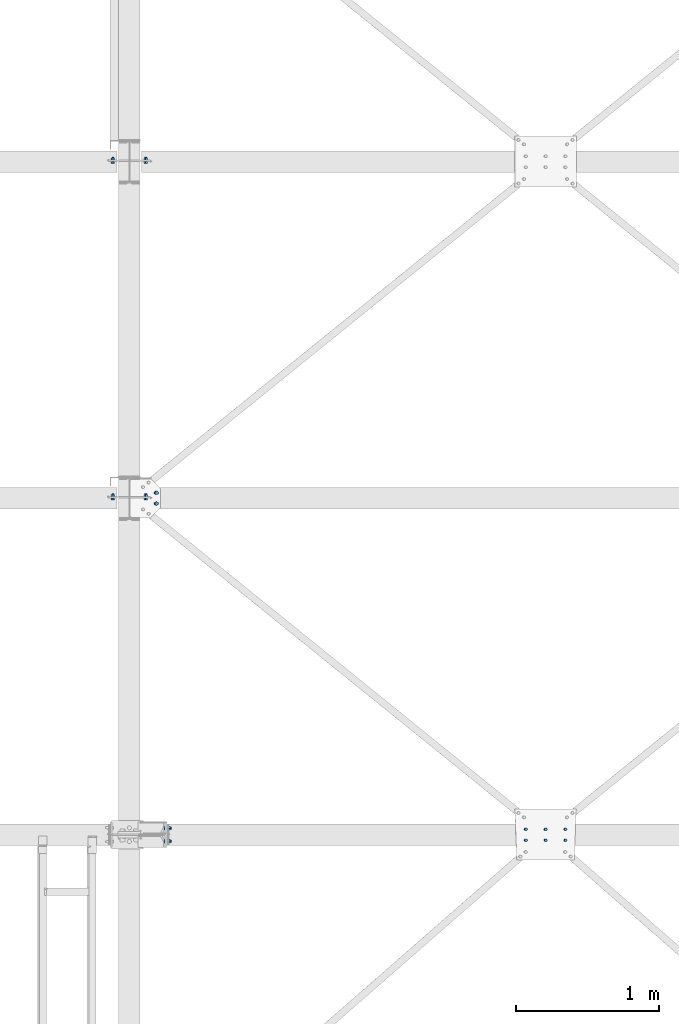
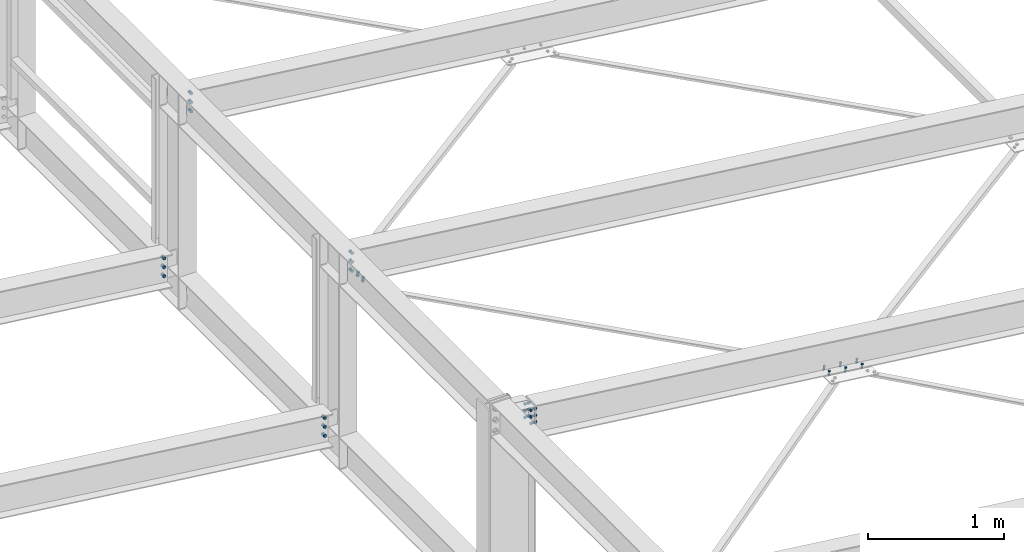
# One storey, part 114 of 3134: 7 mechanical fasteners, 6 elements without a shape of their own.
"""IFC2X3 building model written with IfcOpenShell, lengths in millimetres."""

from ifc_helpers import new_model, si_unit, frame, origin_with_axes, place, context, subcontext, project, spatial, faceted_brep, source, transform, mapped, material, type_object, element, aggregate, save


model = new_model("IFC2X3")

# Units and contexts
model_context = context("Model", 3, precision=1e-05, world=origin_with_axes())
body_context = subcontext(model_context, "Body", "Model", "MODEL_VIEW")
ifc_project = project(units=[si_unit("LENGTHUNIT", "METRE", prefix="MILLI"), si_unit("AREAUNIT", "SQUARE_METRE"), si_unit("VOLUMEUNIT", "CUBIC_METRE"), si_unit("MASSUNIT", "GRAM", prefix="KILO"), si_unit("TIMEUNIT", "SECOND"), si_unit("PLANEANGLEUNIT", "RADIAN"), si_unit("SOLIDANGLEUNIT", "STERADIAN"), si_unit("THERMODYNAMICTEMPERATUREUNIT", "DEGREE_CELSIUS"), si_unit("LUMINOUSINTENSITYUNIT", "LUMEN")], contexts=[model_context])

# Site, building, storey
site_placement = place(None, origin_with_axes())
site = spatial("IfcSite", under=ifc_project, at=site_placement, CompositionType="ELEMENT")
building_placement = place(site_placement, origin_with_axes())
building = spatial("IfcBuilding", under=site, at=building_placement, Name="Undefined", CompositionType="ELEMENT")
storey_placement = place(building_placement, origin_with_axes())
storey = spatial("IfcBuildingStorey", under=building, at=storey_placement, Name="Undefined", CompositionType="ELEMENT", Elevation=0.0)

# Assembly, mechanical fastener
assembly_1_placement = place(storey_placement, origin_with_axes())
assembly_1 = element("IfcElementAssembly", 1, at=assembly_1_placement, inside=storey, Name="IPE400", AssemblyPlace="NOTDEFINED", PredefinedType="RIGID_FRAME")
ifc_material = material(Name="8.8")
mechanical_fastener_type = type_object("IfcMechanicalFastenerType", Name="Bolt assembly")
shared_shape_1 = source(origin_with_axes(), body_context, "Body", "Brep", [
    faceted_brep([(13.856406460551, -33.499999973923, 0.0), (6.92820323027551, -33.499999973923, 12.0), (-6.92820323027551, -33.499999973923, 12.0), (-13.856406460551, -33.499999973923, 1.69692038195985e-15), (-6.92820323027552, -33.499999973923, -12.0), (6.9282032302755, -33.499999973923, -12.0), (6.9282032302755, -23.499999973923, -12.0), (-6.92820323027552, -23.499999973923, -12.0), (-13.856406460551, -23.499999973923, 1.69692038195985e-15), (-6.92820323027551, -23.499999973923, 12.0), (6.92820323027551, -23.499999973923, 12.0), (13.856406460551, -23.499999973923, 0.0), (8.0, -23.499999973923, 0.0), (6.92820323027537, -23.499999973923, 4.00000000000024), (3.99999999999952, -23.499999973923, 6.92820323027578), (-8.29068785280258e-13, -23.499999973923, 8.0), (-4.00000000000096, -23.499999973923, 6.92820323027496), (-6.9282032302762, -23.499999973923, 3.99999999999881), (-8.0, -23.499999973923, -1.65813757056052e-12), (-6.92820323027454, -23.499999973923, -4.00000000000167), (-3.99999999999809, -23.499999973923, -6.92820323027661), (2.47832457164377e-12, -23.499999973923, -8.0), (4.00000000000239, -23.499999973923, -6.92820323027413), (6.92820323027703, -23.499999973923, -3.99999999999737), (6.92820323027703, 21.500000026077, -3.99999999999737), (4.00000000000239, 21.500000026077, -6.92820323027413), (2.47832457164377e-12, 21.500000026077, -8.0), (-3.99999999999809, 21.500000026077, -6.92820323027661), (-6.92820323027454, 21.500000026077, -4.00000000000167), (-8.0, 21.500000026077, -1.65813757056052e-12), (-6.9282032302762, 21.500000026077, 3.99999999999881), (-4.00000000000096, 21.500000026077, 6.92820323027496), (-8.29068785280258e-13, 21.500000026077, 8.0), (3.99999999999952, 21.500000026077, 6.92820323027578), (6.92820323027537, 21.500000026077, 4.00000000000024), (8.0, 21.500000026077, 0.0), (13.856406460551, 0.0, 0.0), (6.92820323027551, 0.0, 12.0), (-6.92820323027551, 0.0, 12.0), (-13.856406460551, 0.0, 1.69692038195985e-15), (-6.92820323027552, 0.0, -12.0), (6.9282032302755, 0.0, -12.0), (6.9282032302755, 12.9999996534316, -12.0), (-6.92820323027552, 12.9999996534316, -12.0), (-13.856406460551, 12.9999996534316, 1.69692038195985e-15), (-6.92820323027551, 12.9999996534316, 12.0), (6.92820323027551, 12.9999996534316, 12.0), (13.856406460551, 12.9999996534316, 0.0)], [[[0, 1, 2, 3, 4, 5]], [[6, 7, 8, 9, 10, 11]], [[0, 11, 10, 1]], [[1, 10, 9, 2]], [[2, 9, 8, 3]], [[3, 8, 7, 4]], [[4, 7, 6, 5]], [[5, 6, 11, 0]], [[12, 13, 14, 15, 16, 17, 18, 19, 20, 21, 22, 23]], [[24, 25, 26, 27, 28, 29, 30, 31, 32, 33, 34, 35]], [[12, 35, 34, 13]], [[13, 34, 33, 14]], [[14, 33, 32, 15]], [[15, 32, 31, 16]], [[16, 31, 30, 17]], [[17, 30, 29, 18]], [[18, 29, 28, 19]], [[19, 28, 27, 20]], [[20, 27, 26, 21]], [[21, 26, 25, 22]], [[22, 25, 24, 23]], [[23, 24, 35, 12]], [[36, 37, 38, 39, 40, 41]], [[42, 43, 44, 45, 46, 47]], [[36, 47, 46, 37]], [[37, 46, 45, 38]], [[38, 45, 44, 39]], [[39, 44, 43, 40]], [[40, 43, 42, 41]], [[41, 42, 47, 36]]]),
    faceted_brep([(9.0, -10.1000003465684, 0.0), (7.79422863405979, -10.1000003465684, 4.50000000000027), (4.49999999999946, -10.1000003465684, 7.79422863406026), (-9.3270238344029e-13, -10.1000003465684, 9.0), (-4.50000000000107, -10.1000003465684, 7.79422863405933), (-7.79422863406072, -10.1000003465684, 4.49999999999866), (-9.0, -10.1000003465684, -1.86540476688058e-12), (-7.79422863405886, -10.1000003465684, -4.50000000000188), (-4.49999999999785, -10.1000003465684, -7.79422863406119), (2.78811514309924e-12, -10.1000003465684, -9.0), (4.50000000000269, -10.1000003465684, -7.7942286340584), (7.79422863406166, -10.1000003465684, -4.49999999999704), (7.79422863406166, -3.46568413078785e-07, -4.49999999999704), (4.50000000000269, -3.46568413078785e-07, -7.7942286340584), (2.78811514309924e-12, -3.46568413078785e-07, -9.0), (-4.49999999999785, -3.46568413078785e-07, -7.79422863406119), (-7.79422863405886, -3.46568413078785e-07, -4.50000000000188), (-9.0, -3.46568413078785e-07, -1.86540476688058e-12), (-7.79422863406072, -3.46568413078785e-07, 4.49999999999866), (-4.50000000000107, -3.46568413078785e-07, 7.79422863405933), (-9.3270238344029e-13, -3.46568413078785e-07, 9.0), (4.49999999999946, -3.46568413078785e-07, 7.79422863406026), (7.79422863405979, -3.46568413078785e-07, 4.50000000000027), (9.0, -3.46568413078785e-07, 0.0), (9.0, -23.399999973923, 0.0), (7.79422863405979, -23.399999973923, 4.50000000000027), (4.49999999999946, -23.399999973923, 7.79422863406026), (-9.3270238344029e-13, -23.399999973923, 9.0), (-4.50000000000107, -23.399999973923, 7.79422863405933), (-7.79422863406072, -23.399999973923, 4.49999999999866), (-9.0, -23.399999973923, -1.86540476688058e-12), (-7.79422863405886, -23.399999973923, -4.50000000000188), (-4.49999999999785, -23.399999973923, -7.79422863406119), (2.78811514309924e-12, -23.399999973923, -9.0), (4.50000000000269, -23.399999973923, -7.7942286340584), (7.79422863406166, -23.399999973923, -4.49999999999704), (7.79422863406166, -9.89999997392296, -4.49999999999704), (4.50000000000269, -9.89999997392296, -7.7942286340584), (2.78811514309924e-12, -9.89999997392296, -9.0), (-4.49999999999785, -9.89999997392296, -7.79422863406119), (-7.79422863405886, -9.89999997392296, -4.50000000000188), (-9.0, -9.89999997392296, -1.86540476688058e-12), (-7.79422863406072, -9.89999997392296, 4.49999999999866), (-4.50000000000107, -9.89999997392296, 7.79422863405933), (-9.3270238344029e-13, -9.89999997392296, 9.0), (4.49999999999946, -9.89999997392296, 7.79422863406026), (7.79422863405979, -9.89999997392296, 4.50000000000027), (9.0, -9.89999997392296, 0.0)], [[[0, 1, 2, 3, 4, 5, 6, 7, 8, 9, 10, 11]], [[12, 13, 14, 15, 16, 17, 18, 19, 20, 21, 22, 23]], [[0, 23, 22, 1]], [[1, 22, 21, 2]], [[2, 21, 20, 3]], [[3, 20, 19, 4]], [[4, 19, 18, 5]], [[5, 18, 17, 6]], [[6, 17, 16, 7]], [[7, 16, 15, 8]], [[8, 15, 14, 9]], [[9, 14, 13, 10]], [[10, 13, 12, 11]], [[11, 12, 23, 0]], [[24, 25, 26, 27, 28, 29, 30, 31, 32, 33, 34, 35]], [[36, 37, 38, 39, 40, 41, 42, 43, 44, 45, 46, 47]], [[24, 47, 46, 25]], [[25, 46, 45, 26]], [[26, 45, 44, 27]], [[27, 44, 43, 28]], [[28, 43, 42, 29]], [[29, 42, 41, 30]], [[30, 41, 40, 31]], [[31, 40, 39, 32]], [[32, 39, 38, 33]], [[33, 38, 37, 34]], [[34, 37, 36, 35]], [[35, 36, 47, 24]]]),
])
mechanical_fastener_1_placement = place(assembly_1_placement, frame((32800.0000003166, 7650.0, 5615.41113578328), z_axis=(0.0, 1.0, 0.0), x_axis=(0.0, 0.0, 1.0)))
mechanical_fastener_1 = element("IfcMechanicalFastener", 2, at=mechanical_fastener_1_placement, type_object=mechanical_fastener_type, material=ifc_material, Name="Bolt assembly", NominalDiameter=16.0, NominalLength=45.0, context=body_context, shape_type="MappedRepresentation", body=[
    mapped(shared_shape_1, transform((0.0, 0.0, -45.0))),
    mapped(shared_shape_1, transform((60.0, 0.0, -45.0))),
    mapped(shared_shape_1, transform((120.0, 0.0, -45.0))),
    mapped(shared_shape_1, transform((0.0, 0.0, 45.0))),
    mapped(shared_shape_1, transform((60.0, 0.0, 45.0))),
    mapped(shared_shape_1, transform((120.0, 0.0, 45.0))),
])
aggregate(assembly_1, [mechanical_fastener_1])

assembly_2_placement = place(storey_placement, origin_with_axes())
assembly_2 = element("IfcElementAssembly", 3, at=assembly_2_placement, inside=storey, Name="300", AssemblyPlace="NOTDEFINED", PredefinedType="RIGID_FRAME")
shared_shape_2 = source(origin_with_axes(), body_context, "Body", "Brep", [
    faceted_brep([(13.856406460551, -19.199990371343, 0.0), (6.92820323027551, -19.199990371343, 12.0), (-6.92820323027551, -19.199990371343, 12.0), (-13.856406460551, -19.199990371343, 1.69692038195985e-15), (-6.92820323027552, -19.199990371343, -12.0), (6.9282032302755, -19.199990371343, -12.0), (6.9282032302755, -9.19999037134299, -12.0), (-6.92820323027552, -9.19999037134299, -12.0), (-13.856406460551, -9.19999037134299, 1.69692038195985e-15), (-6.92820323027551, -9.19999037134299, 12.0), (6.92820323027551, -9.19999037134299, 12.0), (13.856406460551, -9.19999037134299, 0.0), (8.0, -9.19999037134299, 0.0), (6.92820323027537, -9.19999037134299, 4.00000000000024), (3.99999999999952, -9.19999037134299, 6.92820323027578), (-8.29068785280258e-13, -9.19999037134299, 8.0), (-4.00000000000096, -9.19999037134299, 6.92820323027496), (-6.9282032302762, -9.19999037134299, 3.99999999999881), (-8.0, -9.19999037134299, -1.65813757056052e-12), (-6.92820323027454, -9.19999037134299, -4.00000000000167), (-3.99999999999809, -9.19999037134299, -6.92820323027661), (2.47832457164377e-12, -9.19999037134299, -8.0), (4.00000000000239, -9.19999037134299, -6.92820323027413), (6.92820323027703, -9.19999037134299, -3.99999999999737), (6.92820323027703, 25.800009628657, -3.99999999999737), (4.00000000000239, 25.800009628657, -6.92820323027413), (2.47832457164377e-12, 25.800009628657, -8.0), (-3.99999999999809, 25.800009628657, -6.92820323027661), (-6.92820323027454, 25.800009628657, -4.00000000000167), (-8.0, 25.800009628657, -1.65813757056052e-12), (-6.9282032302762, 25.800009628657, 3.99999999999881), (-4.00000000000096, 25.800009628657, 6.92820323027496), (-8.29068785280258e-13, 25.800009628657, 8.0), (3.99999999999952, 25.800009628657, 6.92820323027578), (6.92820323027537, 25.800009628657, 4.00000000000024), (8.0, 25.800009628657, 0.0), (13.856406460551, 8.00000637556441, 0.0), (6.92820323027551, 8.00000637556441, 12.0), (-6.92820323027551, 8.00000637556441, 12.0), (-13.856406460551, 8.00000637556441, 1.69692038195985e-15), (-6.92820323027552, 8.00000637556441, -12.0), (6.9282032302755, 8.00000637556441, -12.0), (6.9282032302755, 21.0000063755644, -12.0), (-6.92820323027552, 21.0000063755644, -12.0), (-13.856406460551, 21.0000063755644, 1.69692038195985e-15), (-6.92820323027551, 21.0000063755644, 12.0), (6.92820323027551, 21.0000063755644, 12.0), (13.856406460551, 21.0000063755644, 0.0)], [[[0, 1, 2, 3, 4, 5]], [[6, 7, 8, 9, 10, 11]], [[0, 11, 10, 1]], [[1, 10, 9, 2]], [[2, 9, 8, 3]], [[3, 8, 7, 4]], [[4, 7, 6, 5]], [[5, 6, 11, 0]], [[12, 13, 14, 15, 16, 17, 18, 19, 20, 21, 22, 23]], [[24, 25, 26, 27, 28, 29, 30, 31, 32, 33, 34, 35]], [[12, 35, 34, 13]], [[13, 34, 33, 14]], [[14, 33, 32, 15]], [[15, 32, 31, 16]], [[16, 31, 30, 17]], [[17, 30, 29, 18]], [[18, 29, 28, 19]], [[19, 28, 27, 20]], [[20, 27, 26, 21]], [[21, 26, 25, 22]], [[22, 25, 24, 23]], [[23, 24, 35, 12]], [[36, 37, 38, 39, 40, 41]], [[42, 43, 44, 45, 46, 47]], [[36, 47, 46, 37]], [[37, 46, 45, 38]], [[38, 45, 44, 39]], [[39, 44, 43, 40]], [[40, 43, 42, 41]], [[41, 42, 47, 36]]]),
    faceted_brep([(9.0, -0.1, 0.0), (7.79422863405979, -0.1, 4.50000000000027), (4.49999999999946, -0.1, 7.79422863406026), (-9.3270238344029e-13, -0.1, 9.0), (-4.50000000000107, -0.1, 7.79422863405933), (-7.79422863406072, -0.1, 4.49999999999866), (-9.0, -0.1, -1.86540476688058e-12), (-7.79422863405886, -0.1, -4.50000000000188), (-4.49999999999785, -0.1, -7.79422863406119), (2.78811514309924e-12, -0.1, -9.0), (4.50000000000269, -0.1, -7.7942286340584), (7.79422863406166, -0.1, -4.49999999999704), (7.79422863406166, 8.00000000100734, -4.49999999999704), (4.50000000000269, 8.00000000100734, -7.7942286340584), (2.78811514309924e-12, 8.00000000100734, -9.0), (-4.49999999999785, 8.00000000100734, -7.79422863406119), (-7.79422863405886, 8.00000000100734, -4.50000000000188), (-9.0, 8.00000000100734, -1.86540476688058e-12), (-7.79422863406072, 8.00000000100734, 4.49999999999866), (-4.50000000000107, 8.00000000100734, 7.79422863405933), (-9.3270238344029e-13, 8.00000000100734, 9.0), (4.49999999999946, 8.00000000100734, 7.79422863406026), (7.79422863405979, 8.00000000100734, 4.50000000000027), (9.0, 8.00000000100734, 0.0), (9.0, -9.09999037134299, 0.0), (7.79422863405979, -9.09999037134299, 4.50000000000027), (4.49999999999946, -9.09999037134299, 7.79422863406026), (-9.3270238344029e-13, -9.09999037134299, 9.0), (-4.50000000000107, -9.09999037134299, 7.79422863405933), (-7.79422863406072, -9.09999037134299, 4.49999999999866), (-9.0, -9.09999037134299, -1.86540476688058e-12), (-7.79422863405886, -9.09999037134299, -4.50000000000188), (-4.49999999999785, -9.09999037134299, -7.79422863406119), (2.78811514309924e-12, -9.09999037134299, -9.0), (4.50000000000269, -9.09999037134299, -7.7942286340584), (7.79422863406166, -9.09999037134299, -4.49999999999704), (7.79422863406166, 0.100000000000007, -4.49999999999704), (4.50000000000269, 0.100000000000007, -7.7942286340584), (2.78811514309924e-12, 0.100000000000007, -9.0), (-4.49999999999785, 0.100000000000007, -7.79422863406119), (-7.79422863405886, 0.100000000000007, -4.50000000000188), (-9.0, 0.100000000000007, -1.86540476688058e-12), (-7.79422863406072, 0.100000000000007, 4.49999999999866), (-4.50000000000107, 0.100000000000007, 7.79422863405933), (-9.3270238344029e-13, 0.100000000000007, 9.0), (4.49999999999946, 0.100000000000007, 7.79422863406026), (7.79422863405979, 0.100000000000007, 4.50000000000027), (9.0, 0.100000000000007, 0.0)], [[[0, 1, 2, 3, 4, 5, 6, 7, 8, 9, 10, 11]], [[12, 13, 14, 15, 16, 17, 18, 19, 20, 21, 22, 23]], [[0, 23, 22, 1]], [[1, 22, 21, 2]], [[2, 21, 20, 3]], [[3, 20, 19, 4]], [[4, 19, 18, 5]], [[5, 18, 17, 6]], [[6, 17, 16, 7]], [[7, 16, 15, 8]], [[8, 15, 14, 9]], [[9, 14, 13, 10]], [[10, 13, 12, 11]], [[11, 12, 23, 0]], [[24, 25, 26, 27, 28, 29, 30, 31, 32, 33, 34, 35]], [[36, 37, 38, 39, 40, 41, 42, 43, 44, 45, 46, 47]], [[24, 47, 46, 25]], [[25, 46, 45, 26]], [[26, 45, 44, 27]], [[27, 44, 43, 28]], [[28, 43, 42, 29]], [[29, 42, 41, 30]], [[30, 41, 40, 31]], [[31, 40, 39, 32]], [[32, 39, 38, 33]], [[33, 38, 37, 34]], [[34, 37, 36, 35]], [[35, 36, 47, 24]]]),
])
mechanical_fastener_2_placement = place(assembly_2_placement, frame((32714.2248162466, 10047.9995130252, 5496.68063423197), z_axis=(0.992623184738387, 1.63108538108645e-05, -0.12124031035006), x_axis=(1.62000016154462e-05, -0.999999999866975, -1.90000018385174e-06)))
mechanical_fastener_2 = element("IfcMechanicalFastener", 4, at=mechanical_fastener_2_placement, type_object=mechanical_fastener_type, material=ifc_material, Name="Bolt assembly", NominalDiameter=16.0, NominalLength=35.0, context=body_context, shape_type="MappedRepresentation", body=[
    mapped(shared_shape_2, transform((0.0, 0.0, 0.0))),
    mapped(shared_shape_2, transform((76.0, 0.0, 0.0))),
])

assembly_3_placement = place(storey_placement, origin_with_axes())
assembly_3 = element("IfcElementAssembly", 5, at=assembly_3_placement, inside=storey, Name="300", AssemblyPlace="NOTDEFINED", PredefinedType="RIGID_FRAME")
shared_shape_3 = source(origin_with_axes(), body_context, "Body", "Brep", [
    faceted_brep([(13.856406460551, -13.0499999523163, 0.0), (6.92820323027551, -13.0499999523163, 12.0), (-6.92820323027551, -13.0499999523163, 12.0), (-13.856406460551, -13.0499999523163, 1.69692038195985e-15), (-6.92820323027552, -13.0499999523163, -12.0), (6.9282032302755, -13.0499999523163, -12.0), (6.9282032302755, -3.04999995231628, -12.0), (-6.92820323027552, -3.04999995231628, -12.0), (-13.856406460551, -3.04999995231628, 1.69692038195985e-15), (-6.92820323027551, -3.04999995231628, 12.0), (6.92820323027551, -3.04999995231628, 12.0), (13.856406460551, -3.04999995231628, 0.0), (8.0, -3.04999995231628, 0.0), (6.92820323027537, -3.04999995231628, 4.00000000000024), (3.99999999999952, -3.04999995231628, 6.92820323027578), (-8.29068785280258e-13, -3.04999995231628, 8.0), (-4.00000000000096, -3.04999995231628, 6.92820323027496), (-6.9282032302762, -3.04999995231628, 3.99999999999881), (-8.0, -3.04999995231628, -1.65813757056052e-12), (-6.92820323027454, -3.04999995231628, -4.00000000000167), (-3.99999999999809, -3.04999995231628, -6.92820323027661), (2.47832457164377e-12, -3.04999995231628, -8.0), (4.00000000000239, -3.04999995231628, -6.92820323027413), (6.92820323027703, -3.04999995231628, -3.99999999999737), (6.92820323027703, 31.9500000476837, -3.99999999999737), (4.00000000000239, 31.9500000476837, -6.92820323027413), (2.47832457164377e-12, 31.9500000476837, -8.0), (-3.99999999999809, 31.9500000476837, -6.92820323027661), (-6.92820323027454, 31.9500000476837, -4.00000000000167), (-8.0, 31.9500000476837, -1.65813757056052e-12), (-6.9282032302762, 31.9500000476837, 3.99999999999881), (-4.00000000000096, 31.9500000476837, 6.92820323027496), (-8.29068785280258e-13, 31.9500000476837, 8.0), (3.99999999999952, 31.9500000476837, 6.92820323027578), (6.92820323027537, 31.9500000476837, 4.00000000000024), (8.0, 31.9500000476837, 0.0), (13.856406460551, 13.0500000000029, 0.0), (6.92820323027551, 13.0500000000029, 12.0), (-6.92820323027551, 13.0500000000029, 12.0), (-13.856406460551, 13.0500000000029, 1.69692038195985e-15), (-6.92820323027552, 13.0500000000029, -12.0), (6.9282032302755, 13.0500000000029, -12.0), (6.9282032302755, 26.0500000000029, -12.0), (-6.92820323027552, 26.0500000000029, -12.0), (-13.856406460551, 26.0500000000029, 1.69692038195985e-15), (-6.92820323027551, 26.0500000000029, 12.0), (6.92820323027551, 26.0500000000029, 12.0), (13.856406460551, 26.0500000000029, 0.0)], [[[0, 1, 2, 3, 4, 5]], [[6, 7, 8, 9, 10, 11]], [[0, 11, 10, 1]], [[1, 10, 9, 2]], [[2, 9, 8, 3]], [[3, 8, 7, 4]], [[4, 7, 6, 5]], [[5, 6, 11, 0]], [[12, 13, 14, 15, 16, 17, 18, 19, 20, 21, 22, 23]], [[24, 25, 26, 27, 28, 29, 30, 31, 32, 33, 34, 35]], [[12, 35, 34, 13]], [[13, 34, 33, 14]], [[14, 33, 32, 15]], [[15, 32, 31, 16]], [[16, 31, 30, 17]], [[17, 30, 29, 18]], [[18, 29, 28, 19]], [[19, 28, 27, 20]], [[20, 27, 26, 21]], [[21, 26, 25, 22]], [[22, 25, 24, 23]], [[23, 24, 35, 12]], [[36, 37, 38, 39, 40, 41]], [[42, 43, 44, 45, 46, 47]], [[36, 47, 46, 37]], [[37, 46, 45, 38]], [[38, 45, 44, 39]], [[39, 44, 43, 40]], [[40, 43, 42, 41]], [[41, 42, 47, 36]]]),
    faceted_brep([(9.0, 2.95000000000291, 0.0), (7.79422863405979, 2.95000000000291, 4.50000000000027), (4.49999999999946, 2.95000000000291, 7.79422863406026), (-9.3270238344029e-13, 2.95000000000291, 9.0), (-4.50000000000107, 2.95000000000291, 7.79422863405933), (-7.79422863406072, 2.95000000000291, 4.49999999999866), (-9.0, 2.95000000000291, -1.86540476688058e-12), (-7.79422863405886, 2.95000000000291, -4.50000000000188), (-4.49999999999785, 2.95000000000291, -7.79422863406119), (2.78811514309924e-12, 2.95000000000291, -9.0), (4.50000000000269, 2.95000000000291, -7.7942286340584), (7.79422863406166, 2.95000000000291, -4.49999999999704), (7.79422863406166, 13.0500000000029, -4.49999999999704), (4.50000000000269, 13.0500000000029, -7.7942286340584), (2.78811514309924e-12, 13.0500000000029, -9.0), (-4.49999999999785, 13.0500000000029, -7.79422863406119), (-7.79422863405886, 13.0500000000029, -4.50000000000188), (-9.0, 13.0500000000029, -1.86540476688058e-12), (-7.79422863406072, 13.0500000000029, 4.49999999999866), (-4.50000000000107, 13.0500000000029, 7.79422863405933), (-9.3270238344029e-13, 13.0500000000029, 9.0), (4.49999999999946, 13.0500000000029, 7.79422863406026), (7.79422863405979, 13.0500000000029, 4.50000000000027), (9.0, 13.0500000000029, 0.0), (9.0, -2.94999995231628, 0.0), (7.79422863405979, -2.94999995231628, 4.50000000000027), (4.49999999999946, -2.94999995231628, 7.79422863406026), (-9.3270238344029e-13, -2.94999995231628, 9.0), (-4.50000000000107, -2.94999995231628, 7.79422863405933), (-7.79422863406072, -2.94999995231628, 4.49999999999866), (-9.0, -2.94999995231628, -1.86540476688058e-12), (-7.79422863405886, -2.94999995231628, -4.50000000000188), (-4.49999999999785, -2.94999995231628, -7.79422863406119), (2.78811514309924e-12, -2.94999995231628, -9.0), (4.50000000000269, -2.94999995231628, -7.7942286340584), (7.79422863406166, -2.94999995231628, -4.49999999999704), (7.79422863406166, 3.14999995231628, -4.49999999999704), (4.50000000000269, 3.14999995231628, -7.7942286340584), (2.78811514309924e-12, 3.14999995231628, -9.0), (-4.49999999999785, 3.14999995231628, -7.79422863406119), (-7.79422863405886, 3.14999995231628, -4.50000000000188), (-9.0, 3.14999995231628, -1.86540476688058e-12), (-7.79422863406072, 3.14999995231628, 4.49999999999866), (-4.50000000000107, 3.14999995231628, 7.79422863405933), (-9.3270238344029e-13, 3.14999995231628, 9.0), (4.49999999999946, 3.14999995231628, 7.79422863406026), (7.79422863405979, 3.14999995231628, 4.50000000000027), (9.0, 3.14999995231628, 0.0)], [[[0, 1, 2, 3, 4, 5, 6, 7, 8, 9, 10, 11]], [[12, 13, 14, 15, 16, 17, 18, 19, 20, 21, 22, 23]], [[0, 23, 22, 1]], [[1, 22, 21, 2]], [[2, 21, 20, 3]], [[3, 20, 19, 4]], [[4, 19, 18, 5]], [[5, 18, 17, 6]], [[6, 17, 16, 7]], [[7, 16, 15, 8]], [[8, 15, 14, 9]], [[9, 14, 13, 10]], [[10, 13, 12, 11]], [[11, 12, 23, 0]], [[24, 25, 26, 27, 28, 29, 30, 31, 32, 33, 34, 35]], [[36, 37, 38, 39, 40, 41, 42, 43, 44, 45, 46, 47]], [[24, 47, 46, 25]], [[25, 46, 45, 26]], [[26, 45, 44, 27]], [[27, 44, 43, 28]], [[28, 43, 42, 29]], [[29, 42, 41, 30]], [[30, 41, 40, 31]], [[31, 40, 39, 32]], [[32, 39, 38, 33]], [[33, 38, 37, 34]], [[34, 37, 36, 35]], [[35, 36, 47, 24]]]),
])
mechanical_fastener_3_placement = place(assembly_3_placement, frame((32640.0, 12370.0, 5735.35014950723), z_axis=(1.0, 0.0, 0.0), x_axis=(0.0, 0.0, -1.0)))
mechanical_fastener_3 = element("IfcMechanicalFastener", 6, at=mechanical_fastener_3_placement, type_object=mechanical_fastener_type, material=ifc_material, Name="Bolt assembly", NominalDiameter=16.0, NominalLength=35.0, context=body_context, shape_type="MappedRepresentation", body=[
    mapped(shared_shape_3, transform((0.0, 0.0, 0.0))),
    mapped(shared_shape_3, transform((80.0, 0.0, 0.0))),
    mapped(shared_shape_3, transform((160.0, 0.0, 0.0))),
])
aggregate(assembly_3, [mechanical_fastener_3])

# Mechanical fastener
mechanical_fastener_4_placement = place(assembly_2_placement, frame((32640.0, 10010.0, 5735.35014950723), z_axis=(1.0, 0.0, 0.0), x_axis=(0.0, 0.0, -1.0)))
mechanical_fastener_4 = element("IfcMechanicalFastener", 7, at=mechanical_fastener_4_placement, type_object=mechanical_fastener_type, material=ifc_material, Name="Bolt assembly", NominalDiameter=16.0, NominalLength=35.0, context=body_context, shape_type="MappedRepresentation", body=[
    mapped(shared_shape_3, transform((0.0, 0.0, 0.0))),
    mapped(shared_shape_3, transform((80.0, 0.0, 0.0))),
    mapped(shared_shape_3, transform((160.0, 0.0, 0.0))),
])

aggregate(assembly_2, [mechanical_fastener_2, mechanical_fastener_4])

# Assembly, mechanical fastener
assembly_4_placement = place(storey_placement, origin_with_axes())
assembly_4 = element("IfcElementAssembly", 8, at=assembly_4_placement, inside=storey, Name="300", AssemblyPlace="NOTDEFINED", PredefinedType="RIGID_FRAME")
mechanical_fastener_5_placement = place(assembly_4_placement, frame((32410.0, 10010.0, 4337.44269270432), z_axis=(1.0, 0.0, 0.0), x_axis=(0.0, 0.0, -1.0)))
mechanical_fastener_5 = element("IfcMechanicalFastener", 9, at=mechanical_fastener_5_placement, type_object=mechanical_fastener_type, material=ifc_material, Name="Bolt assembly", NominalDiameter=16.0, NominalLength=35.0, context=body_context, shape_type="MappedRepresentation", body=[
    mapped(shared_shape_3, transform((0.0, 0.0, 0.0))),
    mapped(shared_shape_3, transform((80.0, 0.0, 0.0))),
    mapped(shared_shape_3, transform((160.0, 0.0, 0.0))),
])
aggregate(assembly_4, [mechanical_fastener_5])

assembly_5_placement = place(storey_placement, origin_with_axes())
assembly_5 = element("IfcElementAssembly", 10, at=assembly_5_placement, inside=storey, Name="300", AssemblyPlace="NOTDEFINED", PredefinedType="RIGID_FRAME")
mechanical_fastener_6_placement = place(assembly_5_placement, frame((32410.0, 12370.0, 4337.44269270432), z_axis=(1.0, 0.0, 0.0), x_axis=(0.0, 0.0, -1.0)))
mechanical_fastener_6 = element("IfcMechanicalFastener", 11, at=mechanical_fastener_6_placement, type_object=mechanical_fastener_type, material=ifc_material, Name="Bolt assembly", NominalDiameter=16.0, NominalLength=35.0, context=body_context, shape_type="MappedRepresentation", body=[
    mapped(shared_shape_3, transform((0.0, 0.0, 0.0))),
    mapped(shared_shape_3, transform((80.0, 0.0, 0.0))),
    mapped(shared_shape_3, transform((160.0, 0.0, 0.0))),
])
aggregate(assembly_5, [mechanical_fastener_6])

assembly_6_placement = place(storey_placement, origin_with_axes())
assembly_6 = element("IfcElementAssembly", 12, at=assembly_6_placement, inside=storey, Name="300", AssemblyPlace="NOTDEFINED", PredefinedType="RIGID_FRAME")
shared_shape_4 = source(origin_with_axes(), body_context, "Body", "Brep", [
    faceted_brep([(10.9696551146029, -17.1999998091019, 0.0), (5.48482755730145, -17.1999998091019, 9.5), (-5.48482755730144, -17.1999998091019, 9.5), (-10.9696551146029, -17.1999998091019, 1.34339530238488e-15), (-5.48482755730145, -17.1999998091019, -9.5), (5.48482755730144, -17.1999998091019, -9.50000000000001), (5.48482755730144, -9.19999978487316, -9.50000000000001), (-5.48482755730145, -9.19999978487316, -9.5), (-10.9696551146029, -9.19999978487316, 1.34339530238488e-15), (-5.48482755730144, -9.19999978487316, 9.5), (5.48482755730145, -9.19999978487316, 9.5), (10.9696551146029, -9.19999978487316, 0.0), (6.0, -9.19999978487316, 0.0), (5.19615242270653, -9.19999978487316, 3.00000000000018), (2.99999999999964, -9.19999978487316, 5.19615242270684), (-6.21801588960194e-13, -9.19999978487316, 6.0), (-3.00000000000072, -9.19999978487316, 5.19615242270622), (-5.19615242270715, -9.19999978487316, 2.9999999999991), (-6.0, -9.19999978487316, -1.24360317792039e-12), (-5.19615242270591, -9.19999978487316, -3.00000000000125), (-2.99999999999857, -9.19999978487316, -5.19615242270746), (1.85874342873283e-12, -9.19999978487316, -6.0), (3.00000000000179, -9.19999978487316, -5.1961524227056), (5.19615242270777, -9.19999978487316, -2.99999999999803), (5.19615242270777, 25.8000002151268, -2.99999999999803), (3.00000000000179, 25.8000002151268, -5.1961524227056), (1.85874342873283e-12, 25.8000002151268, -6.0), (-2.99999999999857, 25.8000002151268, -5.19615242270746), (-5.19615242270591, 25.8000002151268, -3.00000000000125), (-6.0, 25.8000002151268, -1.24360317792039e-12), (-5.19615242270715, 25.8000002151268, 2.9999999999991), (-3.00000000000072, 25.8000002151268, 5.19615242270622), (-6.21801588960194e-13, 25.8000002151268, 6.0), (2.99999999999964, 25.8000002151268, 5.19615242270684), (5.19615242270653, 25.8000002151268, 3.00000000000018), (6.0, 25.8000002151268, 0.0), (10.9696551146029, 8.0, 0.0), (5.48482755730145, 8.0, 9.5), (-5.48482755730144, 8.0, 9.5), (-10.9696551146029, 8.0, 1.34339530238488e-15), (-5.48482755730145, 8.0, -9.5), (5.48482755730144, 8.0, -9.50000000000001), (5.48482755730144, 18.0, -9.50000000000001), (-5.48482755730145, 18.0, -9.5), (-10.9696551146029, 18.0, 1.34339530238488e-15), (-5.48482755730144, 18.0, 9.5), (5.48482755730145, 18.0, 9.5), (10.9696551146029, 18.0, 0.0)], [[[0, 1, 2, 3, 4, 5]], [[6, 7, 8, 9, 10, 11]], [[0, 11, 10, 1]], [[1, 10, 9, 2]], [[2, 9, 8, 3]], [[3, 8, 7, 4]], [[4, 7, 6, 5]], [[5, 6, 11, 0]], [[12, 13, 14, 15, 16, 17, 18, 19, 20, 21, 22, 23]], [[24, 25, 26, 27, 28, 29, 30, 31, 32, 33, 34, 35]], [[12, 35, 34, 13]], [[13, 34, 33, 14]], [[14, 33, 32, 15]], [[15, 32, 31, 16]], [[16, 31, 30, 17]], [[17, 30, 29, 18]], [[18, 29, 28, 19]], [[19, 28, 27, 20]], [[20, 27, 26, 21]], [[21, 26, 25, 22]], [[22, 25, 24, 23]], [[23, 24, 35, 12]], [[36, 37, 38, 39, 40, 41]], [[42, 43, 44, 45, 46, 47]], [[36, 47, 46, 37]], [[37, 46, 45, 38]], [[38, 45, 44, 39]], [[39, 44, 43, 40]], [[40, 43, 42, 41]], [[41, 42, 47, 36]]]),
    faceted_brep([(7.0, -0.1, 0.0), (6.06217782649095, -0.1, 3.50000000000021), (3.49999999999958, -0.1, 6.06217782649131), (-7.25435187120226e-13, -0.1, 7.0), (-3.50000000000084, -0.1, 6.06217782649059), (-6.06217782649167, -0.1, 3.49999999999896), (-7.0, -0.1, -1.45087037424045e-12), (-6.06217782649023, -0.1, -3.50000000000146), (-3.49999999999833, -0.1, -6.06217782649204), (2.1685340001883e-12, -0.1, -7.0), (3.50000000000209, -0.1, -6.06217782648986), (6.0621778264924, -0.1, -3.4999999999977), (6.0621778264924, 8.0000000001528, -3.4999999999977), (3.50000000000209, 8.0000000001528, -6.06217782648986), (2.1685340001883e-12, 8.0000000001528, -7.0), (-3.49999999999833, 8.0000000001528, -6.06217782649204), (-6.06217782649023, 8.0000000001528, -3.50000000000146), (-7.0, 8.0000000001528, -1.45087037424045e-12), (-6.06217782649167, 8.0000000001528, 3.49999999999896), (-3.50000000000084, 8.0000000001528, 6.06217782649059), (-7.25435187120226e-13, 8.0000000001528, 7.0), (3.49999999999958, 8.0000000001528, 6.06217782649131), (6.06217782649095, 8.0000000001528, 3.50000000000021), (7.0, 8.0000000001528, 0.0), (7.0, -9.09999980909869, 0.0), (6.06217782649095, -9.09999980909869, 3.50000000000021), (3.49999999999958, -9.09999980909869, 6.06217782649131), (-7.25435187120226e-13, -9.09999980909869, 7.0), (-3.50000000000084, -9.09999980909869, 6.06217782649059), (-6.06217782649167, -9.09999980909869, 3.49999999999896), (-7.0, -9.09999980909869, -1.45087037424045e-12), (-6.06217782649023, -9.09999980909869, -3.50000000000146), (-3.49999999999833, -9.09999980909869, -6.06217782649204), (2.1685340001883e-12, -9.09999980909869, -7.0), (3.50000000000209, -9.09999980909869, -6.06217782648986), (6.0621778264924, -9.09999980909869, -3.4999999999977), (6.0621778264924, 0.0999999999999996, -3.4999999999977), (3.50000000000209, 0.0999999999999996, -6.06217782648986), (2.1685340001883e-12, 0.0999999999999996, -7.0), (-3.49999999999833, 0.0999999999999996, -6.06217782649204), (-6.06217782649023, 0.0999999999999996, -3.50000000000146), (-7.0, 0.0999999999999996, -1.45087037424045e-12), (-6.06217782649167, 0.0999999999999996, 3.49999999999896), (-3.50000000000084, 0.0999999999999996, 6.06217782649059), (-7.25435187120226e-13, 0.0999999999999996, 7.0), (3.49999999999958, 0.0999999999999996, 6.06217782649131), (6.06217782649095, 0.0999999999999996, 3.50000000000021), (7.0, 0.0999999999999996, 0.0)], [[[0, 1, 2, 3, 4, 5, 6, 7, 8, 9, 10, 11]], [[12, 13, 14, 15, 16, 17, 18, 19, 20, 21, 22, 23]], [[0, 23, 22, 1]], [[1, 22, 21, 2]], [[2, 21, 20, 3]], [[3, 20, 19, 4]], [[4, 19, 18, 5]], [[5, 18, 17, 6]], [[6, 17, 16, 7]], [[7, 16, 15, 8]], [[8, 15, 14, 9]], [[9, 14, 13, 10]], [[10, 13, 12, 11]], [[11, 12, 23, 0]], [[24, 25, 26, 27, 28, 29, 30, 31, 32, 33, 34, 35]], [[36, 37, 38, 39, 40, 41, 42, 43, 44, 45, 46, 47]], [[24, 47, 46, 25]], [[25, 46, 45, 26]], [[26, 45, 44, 27]], [[27, 44, 43, 28]], [[28, 43, 42, 29]], [[29, 42, 41, 30]], [[30, 41, 40, 31]], [[31, 40, 39, 32]], [[32, 39, 38, 33]], [[33, 38, 37, 34]], [[34, 37, 36, 35]], [[35, 36, 47, 24]]]),
])
mechanical_fastener_7_placement = place(assembly_6_placement, frame((35583.202206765, 7650.0, 5146.25993621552), z_axis=(0.0, -1.0, 0.0), x_axis=(-0.992623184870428, 0.0, 0.121240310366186)))
mechanical_fastener_7 = element("IfcMechanicalFastener", 13, at=mechanical_fastener_7_placement, type_object=mechanical_fastener_type, material=ifc_material, Name="Bolt assembly", NominalDiameter=12.0, NominalLength=35.0, context=body_context, shape_type="MappedRepresentation", body=[
    mapped(shared_shape_4, transform((0.0, 0.0, -38.0))),
    mapped(shared_shape_4, transform((140.000000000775, 5.85714587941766e-10, -38.0))),
    mapped(shared_shape_4, transform((279.999999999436, -4.74756234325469e-10, -38.0))),
    mapped(shared_shape_4, transform((0.0, 0.0, 38.0))),
    mapped(shared_shape_4, transform((140.000000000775, 5.85714587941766e-10, 38.0))),
    mapped(shared_shape_4, transform((279.999999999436, -4.74756234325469e-10, 38.0))),
])
aggregate(assembly_6, [mechanical_fastener_7])

save(model, "model.ifc")
